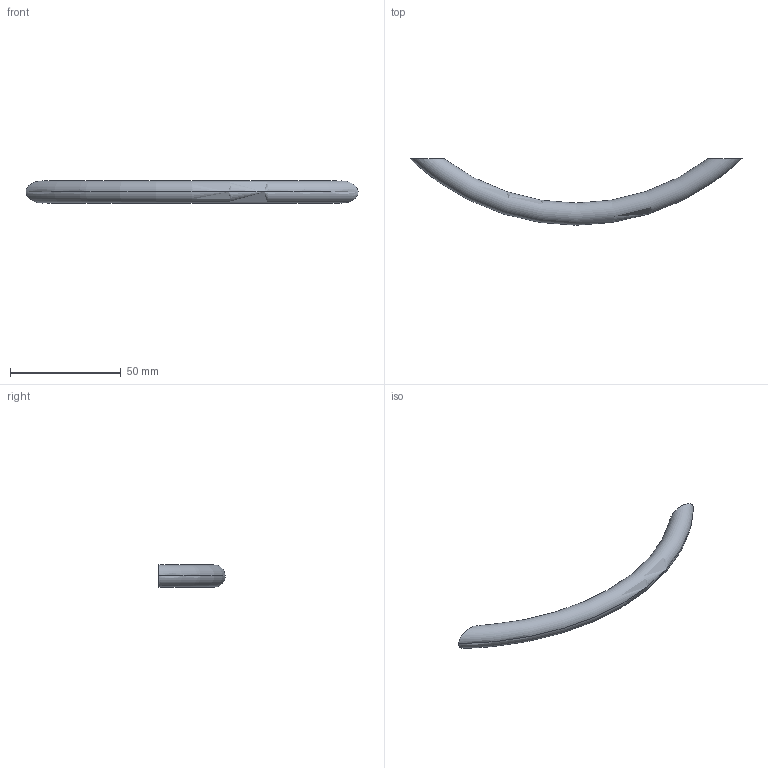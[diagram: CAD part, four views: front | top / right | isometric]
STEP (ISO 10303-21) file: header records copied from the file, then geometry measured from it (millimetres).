
FILE_DESCRIPTION( ( '' ), '1' );
FILE_NAME( 'D:/HETTCAD 2014/DATA TRANSFER/AUTOCAD EXPORT/SENT/Sheet correction/prodecor nicia/9070985/9071037.stp', '2014-08-27T08:53:42', ( '' ), ( '' ), ' ', ' ', ' ' );
FILE_SCHEMA( ( 'CONFIG_CONTROL_DESIGN' ) );
Length unit declared in the file: millimetre
Products named in the file (1): 1
Bounding box: 150 x 30 x 10 mm (x, y, z)
Volume: 11390.5 mm3; surface area: 5007.6 mm2
Topology: 1 solids, 1 shells, 10 faces, 18 edges, 12 vertices
Faces by surface type: cylinder 4, plane 4, torus 2
Entity records: 492 total; most frequent: CARTESIAN_POINT 245, DIRECTION 46, ORIENTED_EDGE 36, AXIS2_PLACEMENT_3D 21, EDGE_CURVE 18, EDGE_LOOP 12, VERTEX_POINT 12, ADVANCED_FACE 10
